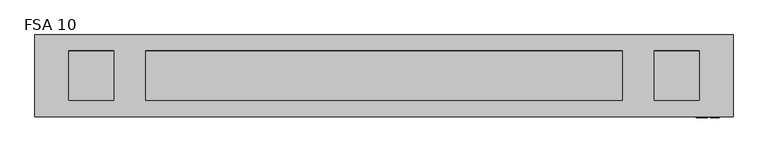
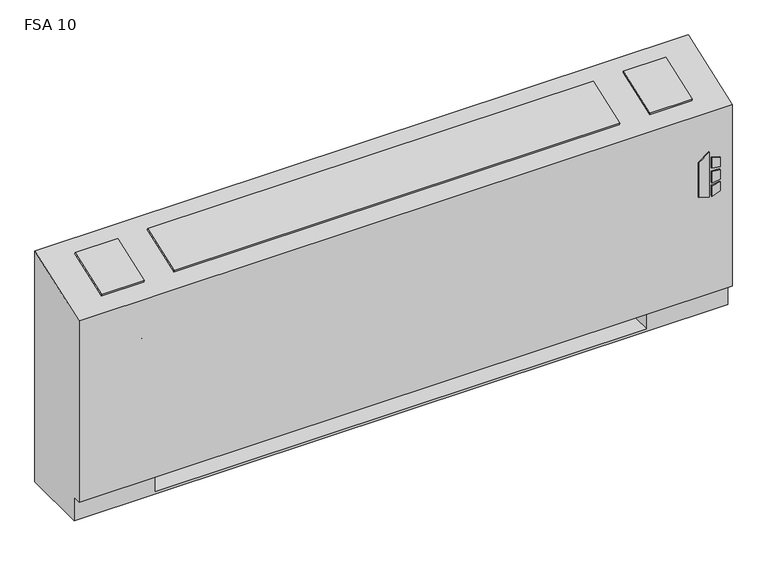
"""IFC4 building model written with IfcOpenShell, lengths in millimetres: proxy geometry, Vertical_Fan_Coil_Unit_-_FSA_-_IEC_-_4-Pipe_TS-FR_LH_2022 : FSA 10."""

from ifc_helpers import new_model, si_unit, point, frame, frame_2d, origin, place, context, project, spatial, polyline, circle_curve, trimmed, segment, composite_curve, outline, extrude, source, transform, mapped, element, save
from ifc_brep_helpers import plane_surface, revolved_surface, advanced_brep


def fsa_10_13eb66bb(model_context):
    return source(origin(), model_context, "Body", "SolidModel", [
        extrude(outline(polyline([(391.6086829, 1027.1868862), (381.6606126, 1059.3602728), (523.831537, 1059.3602728), (500.8095309, 1027.1868862), (391.6086829, 1027.1868862)])), frame((0.0, 12.7, 0.0), z_axis=(0.0, 1.0, 0.0), x_axis=(0.0, 0.0, 1.0)), (0.0, 0.0, 1.0), 3.175),
        extrude(outline(polyline([(470.6079683, 1066.1186058), (467.4055757, 1092.2), (496.6344168, 1092.2), (504.6988318, 1066.1186058), (470.6079683, 1066.1186058)])), frame((0.0, 12.7, 0.0), z_axis=(0.0, 1.0, 0.0), x_axis=(0.0, 0.0, 1.0)), (0.0, 0.0, 1.0), 3.175),
        extrude(outline(polyline([(418.7444414, 1092.2), (415.0789404, 1066.1186058), (381.6606126, 1066.1186058), (390.2948498, 1092.2), (418.7444414, 1092.2)])), frame((0.0, 12.7, 0.0), z_axis=(0.0, 1.0, 0.0), x_axis=(0.0, 0.0, 1.0)), (0.0, 0.0, 1.0), 3.175),
        extrude(outline(polyline([(458.0596028, 1092.2), (460.3414292, 1066.1186058), (424.4038806, 1066.1186058), (427.1451456, 1092.2), (458.0596028, 1092.2)])), frame((0.0, 12.7, 0.0), z_axis=(0.0, 1.0, 0.0), x_axis=(0.0, 0.0, 1.0)), (0.0, 0.0, 1.0), 3.175),
        extrude(outline(polyline([(1009.65, 223.266), (1009.65, 81.534), (889.0, 81.534), (889.0, 223.266), (1009.65, 223.266)])), frame((0.0, 0.0, 327.025), z_axis=(0.0, 0.0, 1.0), x_axis=(1.0, 0.0, 0.0)), (0.0, 0.0, 1.0), 260.35),
        extrude(outline(composite_curve([segment(trimmed(circle_curve(frame_2d((-647.7, 130.175)), 9.525), [point((-657.225, 130.175))], [point((-638.175, 130.175))], False, "CARTESIAN"), True, "CONTINUOUS"), segment(trimmed(circle_curve(frame_2d((-647.7, 130.175)), 9.525), [point((-638.175, 130.175))], [point((-657.225, 130.175))], False, "CARTESIAN"), True, "CONTINUOUS")], self_intersect=False)), frame((0.0, 0.0, 101.6), z_axis=(0.0, 0.0, 1.0), x_axis=(1.0, 0.0, 0.0)), (0.0, 0.0, 1.0), 25.4),
        extrude(outline(polyline([(-749.3, 63.5), (-749.3, 196.85), (-584.2, 196.85), (-584.2, 63.5), (-749.3, 63.5)])), frame((0.0, 0.0, 127.0), z_axis=(0.0, 0.0, 1.0), x_axis=(1.0, 0.0, 0.0)), (0.0, 0.0, 1.0), 50.8),
        extrude(outline(polyline([(0.0, -146.0500001), (0.0, 0.0), (127.0, 0.0), (127.0, -146.0500001), (0.0, -146.0500001)])), frame((-731.393, 200.4217127, 714.3418685), z_axis=(0.0, -0.3396444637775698, 0.9405538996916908), x_axis=(1.0, 0.0, 0.0)), (0.0, 0.0, 1.0), 6.35),
        extrude(outline(polyline([(0.0, -146.0500001), (0.0, 0.0), (1333.5, 0.0), (1333.5, -146.0500001), (0.0, -146.0500001)])), frame((819.15, 63.0538156, 664.7367945), z_axis=(0.0, -0.33964446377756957, 0.9405538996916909), x_axis=(-1.0, 0.0, 0.0)), (0.0, 0.0, 1.0), 6.35),
        extrude(outline(polyline([(0.0, -146.0500001), (0.0, 0.0), (127.0, 0.0), (127.0, -146.0500001), (0.0, -146.0500001)])), frame((1036.193, 63.0538156, 664.7367945), z_axis=(0.0, -0.3396444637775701, 0.9405538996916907), x_axis=(-1.0, 0.0, 0.0)), (0.0, 0.0, 1.0), 6.35),
        extrude(outline(composite_curve([segment(trimmed(circle_curve(frame_2d((109.0168, 460.0194)), 7.9375), [point((109.0168, 467.9569))], [point((109.0168, 452.0819))], False, "CARTESIAN"), True, "CONTINUOUS"), segment(trimmed(circle_curve(frame_2d((109.0168, 460.0194)), 7.9375), [point((109.0168, 452.0819))], [point((109.0168, 467.9569))], False, "CARTESIAN"), True, "CONTINUOUS")], self_intersect=False)), frame((-635.0, 0.0, 0.0), z_axis=(1.0, 0.0, 0.0), x_axis=(0.0, 1.0, 0.0)), (0.0, 0.0, 1.0), 50.8),
        extrude(outline(composite_curve([segment(trimmed(circle_curve(frame_2d((172.085, 460.0194)), 7.9375), [point((172.085, 467.9569))], [point((172.085, 452.0819))], False, "CARTESIAN"), True, "CONTINUOUS"), segment(trimmed(circle_curve(frame_2d((172.085, 460.0194)), 7.9375), [point((172.085, 452.0819))], [point((172.085, 467.9569))], False, "CARTESIAN"), True, "CONTINUOUS")], self_intersect=False)), frame((-635.0, 0.0, 0.0), z_axis=(1.0, 0.0, 0.0), x_axis=(0.0, 1.0, 0.0)), (0.0, 0.0, 1.0), 50.8),
        extrude(outline(composite_curve([segment(trimmed(circle_curve(frame_2d((130.175, 554.99)), 7.9502), [point((130.175, 562.9402))], [point((130.175, 547.0398))], False, "CARTESIAN"), True, "CONTINUOUS"), segment(trimmed(circle_curve(frame_2d((130.175, 554.99)), 7.9502), [point((130.175, 547.0398))], [point((130.175, 562.9402))], False, "CARTESIAN"), True, "CONTINUOUS")], self_intersect=False)), frame((-635.0, 0.0, 0.0), z_axis=(1.0, 0.0, 0.0), x_axis=(0.0, 1.0, 0.0)), (0.0, 0.0, 1.0), 50.8),
        extrude(outline(composite_curve([segment(trimmed(circle_curve(frame_2d((53.975, 416.56)), 7.9502), [point((53.975, 424.5102))], [point((53.975, 408.6098))], False, "CARTESIAN"), True, "CONTINUOUS"), segment(trimmed(circle_curve(frame_2d((53.975, 416.56)), 7.9502), [point((53.975, 408.6098))], [point((53.975, 424.5102))], False, "CARTESIAN"), True, "CONTINUOUS")], self_intersect=False)), frame((-635.0, 0.0, 0.0), z_axis=(1.0, 0.0, 0.0), x_axis=(0.0, 1.0, 0.0)), (0.0, 0.0, 1.0), 50.8),
        advanced_brep(
        [(-825.5, 244.475, 0.0), (1130.3, 244.475, 0.0), (1130.3, 41.275, 0.0), (-825.5, 41.275, 0.0), (-825.5, 244.475, 730.25), (1130.3, 244.475, 730.25), (889.0, 244.475, 73.025), (1117.6, 244.475, 73.025), (1117.6, 244.475, 654.05), (889.0, 244.475, 654.05), (889.0, 244.475, 414.8650565), (917.575, 244.475, 414.8650565), (917.575, 244.475, 385.2349435), (889.0, 244.475, 385.2349435), (889.0, 244.475, 287.3375), (917.575, 244.475, 287.3375), (917.575, 244.475, 258.7625), (889.0, 244.475, 258.7625), (889.0, 244.475, 141.2875), (917.575, 244.475, 141.2875), (917.575, 244.475, 112.7125), (889.0, 244.475, 112.7125), (-584.2, 244.475, 654.05), (-812.8, 244.475, 654.05), (-812.8, 244.475, 73.025), (-584.2, 244.475, 73.025), (-584.2, 244.475, 112.7125), (-612.775, 244.475, 112.7125), (-612.775, 244.475, 141.2875), (-584.2, 244.475, 141.2875), (-584.2, 244.475, 258.7625), (-612.775, 244.475, 258.7625), (-612.775, 244.475, 287.3375), (-584.2, 244.475, 287.3375), (-584.2, 244.475, 385.2349435), (-612.775, 244.475, 385.2349435), (-612.775, 244.475, 414.8650565), (-584.2, 244.475, 414.8650565), (907.2626, 244.475, 127.0), (896.1374, 244.475, 127.0), (907.2626, 244.475, 400.05), (896.1374, 244.475, 400.05), (907.2626, 244.475, 273.05), (896.1374, 244.475, 273.05), (-591.3374, 244.475, 127.0), (-602.4626, 244.475, 127.0), (-591.3374, 244.475, 273.05), (-602.4626, 244.475, 273.05), (-591.3374, 244.475, 400.05), (-602.4626, 244.475, 400.05), (-825.5, 41.275, 73.025), (-825.5, 15.875, 73.025), (-825.5, 15.875, 647.7), (1130.3, 15.875, 73.025), (1130.3, 15.875, 647.7), (1130.3, 41.275, 73.025), (-584.2, 41.275, 73.025), (-584.2, 225.425, 73.025), (889.0, 225.425, 73.025), (889.0, 41.275, 73.025), (889.0, 41.275, 6.35), (-584.2, 41.275, 6.35), (889.0, 41.275, 654.05), (1117.6, 41.275, 654.05), (1117.6, 41.275, 73.025), (889.0, 41.275, 73.025), (-584.2, 41.275, 654.05), (-584.2, 41.275, 73.025), (-812.8, 41.275, 73.025), (-812.8, 41.275, 654.05), (889.0, 225.425, 73.025), (889.0, 238.125, 112.7125), (889.0, 238.125, 141.2875), (889.0, 238.125, 258.7625), (889.0, 238.125, 287.3375), (889.0, 238.125, 385.2349435), (889.0, 238.125, 414.8650565), (-584.2, 225.425, 73.025), (-584.2, 238.125, 414.8650565), (-584.2, 238.125, 385.2349435), (-584.2, 238.125, 287.3375), (-584.2, 238.125, 258.7625), (-584.2, 238.125, 141.2875), (-584.2, 238.125, 112.7125), (-584.2, 225.425, 6.35), (889.0, 225.425, 6.35), (917.575, 238.125, 112.7125), (917.575, 238.125, 141.2875), (896.1374, 238.125, 127.0), (907.2626, 238.125, 127.0), (917.575, 238.125, 258.7625), (917.575, 238.125, 287.3375), (896.1374, 238.125, 273.05), (907.2626, 238.125, 273.05), (917.575, 238.125, 385.2349435), (917.575, 238.125, 414.8650565), (896.1374, 238.125, 400.05), (907.2626, 238.125, 400.05), (-612.775, 238.125, 141.2875), (-612.775, 238.125, 112.7125), (-602.4626, 238.125, 127.0), (-591.3374, 238.125, 127.0), (-612.775, 238.125, 287.3375), (-612.775, 238.125, 258.7625), (-602.4626, 238.125, 273.05), (-591.3374, 238.125, 273.05), (-612.775, 238.125, 414.8650565), (-612.775, 238.125, 385.2349435), (-602.4626, 238.125, 400.05), (-591.3374, 238.125, 400.05)],
        [
            (0, 1),
            (1, 2),
            (2, 3),
            (3, 0),
            (0, 4),
            (4, 5),
            (5, 1),
            (6, 7),
            (7, 8),
            (8, 9),
            (9, 10),
            (10, 11),
            (11, 12),
            (12, 13),
            (13, 14),
            (14, 15),
            (15, 16),
            (16, 17),
            (17, 18),
            (18, 19),
            (19, 20),
            (20, 21),
            (21, 6),
            (22, 23),
            (23, 24),
            (24, 25),
            (25, 26),
            (26, 27),
            (27, 28),
            (28, 29),
            (29, 30),
            (30, 31),
            (31, 32),
            (32, 33),
            (33, 34),
            (34, 35),
            (35, 36),
            (36, 37),
            (37, 22),
            (38, 39, circle_curve(frame((901.7, 244.475, 127.0), z_axis=(0.0, -1.0, 0.0), x_axis=(-1.0, 0.0, 0.0)), 5.5626)),
            (39, 38, circle_curve(frame((901.7, 244.475, 127.0), z_axis=(0.0, -1.0, 0.0), x_axis=(-1.0, 0.0, 0.0)), 5.5626)),
            (40, 41, circle_curve(frame((901.7, 244.475, 400.05), z_axis=(0.0, -1.0, 0.0), x_axis=(-1.0, 0.0, 0.0)), 5.5626)),
            (41, 40, circle_curve(frame((901.7, 244.475, 400.05), z_axis=(0.0, -1.0, 0.0), x_axis=(-1.0, 0.0, 0.0)), 5.5626)),
            (42, 43, circle_curve(frame((901.7, 244.475, 273.05), z_axis=(0.0, -1.0, 0.0), x_axis=(-1.0, 0.0, 0.0)), 5.5626)),
            (43, 42, circle_curve(frame((901.7, 244.475, 273.05), z_axis=(0.0, -1.0, 0.0), x_axis=(-1.0, 0.0, 0.0)), 5.5626)),
            (44, 45, circle_curve(frame((-596.9, 244.475, 127.0), z_axis=(0.0, -1.0, 0.0), x_axis=(-1.0, 0.0, 0.0)), 5.5626)),
            (45, 44, circle_curve(frame((-596.9, 244.475, 127.0), z_axis=(0.0, -1.0, 0.0), x_axis=(-1.0, 0.0, 0.0)), 5.5626)),
            (46, 47, circle_curve(frame((-596.9, 244.475, 273.05), z_axis=(0.0, -1.0, 0.0), x_axis=(-1.0, 0.0, 0.0)), 5.5626)),
            (47, 46, circle_curve(frame((-596.9, 244.475, 273.05), z_axis=(0.0, -1.0, 0.0), x_axis=(-1.0, 0.0, 0.0)), 5.5626)),
            (48, 49, circle_curve(frame((-596.9, 244.475, 400.05), z_axis=(0.0, -1.0, 0.0), x_axis=(-1.0, 0.0, 0.0)), 5.5626)),
            (49, 48, circle_curve(frame((-596.9, 244.475, 400.05), z_axis=(0.0, -1.0, 0.0), x_axis=(-1.0, 0.0, 0.0)), 5.5626)),
            (3, 50),
            (50, 51),
            (51, 52),
            (52, 4),
            (51, 53),
            (53, 54),
            (54, 52),
            (5, 54),
            (53, 55),
            (55, 2),
            (50, 56),
            (56, 57),
            (57, 58),
            (58, 59),
            (59, 55),
            (59, 60),
            (60, 61),
            (61, 56),
            (62, 63),
            (63, 64),
            (64, 65),
            (65, 62),
            (66, 67),
            (67, 68),
            (68, 69),
            (69, 66),
            (65, 70),
            (70, 6),
            (21, 71),
            (71, 72),
            (72, 18),
            (17, 73),
            (73, 74),
            (74, 14),
            (13, 75),
            (75, 76),
            (76, 10),
            (9, 62),
            (64, 7),
            (63, 8),
            (69, 23),
            (22, 66),
            (68, 24),
            (67, 77),
            (77, 25),
            (37, 78),
            (78, 79),
            (79, 34),
            (33, 80),
            (80, 81),
            (81, 30),
            (29, 82),
            (82, 83),
            (83, 26),
            (57, 84),
            (84, 85),
            (85, 58),
            (85, 60),
            (84, 61),
            (71, 86),
            (86, 87),
            (87, 72),
            (88, 89, circle_curve(frame((901.7, 238.125, 127.0), z_axis=(0.0, 1.0, 0.0), x_axis=(-1.0, 0.0, 0.0)), 5.5626)),
            (89, 88, circle_curve(frame((901.7, 238.125, 127.0), z_axis=(0.0, 1.0, 0.0), x_axis=(-1.0, 0.0, 0.0)), 5.5626)),
            (73, 90),
            (90, 91),
            (91, 74),
            (92, 93, circle_curve(frame((901.7, 238.125, 273.05), z_axis=(0.0, 1.0, 0.0), x_axis=(-1.0, 0.0, 0.0)), 5.5626)),
            (93, 92, circle_curve(frame((901.7, 238.125, 273.05), z_axis=(0.0, 1.0, 0.0), x_axis=(-1.0, 0.0, 0.0)), 5.5626)),
            (75, 94),
            (94, 95),
            (95, 76),
            (96, 97, circle_curve(frame((901.7, 238.125, 400.05), z_axis=(0.0, 1.0, 0.0), x_axis=(-1.0, 0.0, 0.0)), 5.5626)),
            (97, 96, circle_curve(frame((901.7, 238.125, 400.05), z_axis=(0.0, 1.0, 0.0), x_axis=(-1.0, 0.0, 0.0)), 5.5626)),
            (98, 99),
            (99, 83),
            (82, 98),
            (100, 101, circle_curve(frame((-596.9, 238.125, 127.0), z_axis=(0.0, 1.0, 0.0), x_axis=(-1.0, 0.0, 0.0)), 5.5626)),
            (101, 100, circle_curve(frame((-596.9, 238.125, 127.0), z_axis=(0.0, 1.0, 0.0), x_axis=(-1.0, 0.0, 0.0)), 5.5626)),
            (102, 103),
            (103, 81),
            (80, 102),
            (104, 105, circle_curve(frame((-596.9, 238.125, 273.05), z_axis=(0.0, 1.0, 0.0), x_axis=(-1.0, 0.0, 0.0)), 5.5626)),
            (105, 104, circle_curve(frame((-596.9, 238.125, 273.05), z_axis=(0.0, 1.0, 0.0), x_axis=(-1.0, 0.0, 0.0)), 5.5626)),
            (106, 107),
            (107, 79),
            (78, 106),
            (108, 109, circle_curve(frame((-596.9, 238.125, 400.05), z_axis=(0.0, 1.0, 0.0), x_axis=(-1.0, 0.0, 0.0)), 5.5626)),
            (109, 108, circle_curve(frame((-596.9, 238.125, 400.05), z_axis=(0.0, 1.0, 0.0), x_axis=(-1.0, 0.0, 0.0)), 5.5626)),
            (87, 19),
            (86, 20),
            (91, 15),
            (90, 16),
            (95, 11),
            (94, 12),
            (28, 98),
            (99, 27),
            (32, 102),
            (103, 31),
            (36, 106),
            (107, 35),
            (88, 39),
            (38, 89),
            (96, 41),
            (40, 97),
            (92, 43),
            (42, 93),
            (100, 45),
            (44, 101),
            (104, 47),
            (46, 105),
            (108, 49),
            (48, 109),
        ],
        [
            plane_surface(frame((-825.5, 244.475, 0.0), z_axis=(0.0, 0.0, -1.0), x_axis=(1.0, 0.0, 0.0))),
            plane_surface(frame((1130.3, 244.475, 730.25), z_axis=(0.0, 1.0, 0.0), x_axis=(0.0, 0.0, -1.0))),
            plane_surface(frame((-825.5, 244.475, 730.25), z_axis=(-1.0, 0.0, 0.0), x_axis=(0.0, 0.0, -1.0))),
            plane_surface(frame((-825.5, 15.875, 730.25), z_axis=(0.0, -1.0, 0.0), x_axis=(0.0, 0.0, -1.0))),
            plane_surface(frame((1130.3, 15.875, 730.25), z_axis=(1.0, 0.0, 0.0), x_axis=(0.0, 0.0, -1.0))),
            plane_surface(frame((-825.5, 15.875, 73.025), z_axis=(0.0, 0.0, -1.0), x_axis=(1.0, 0.0, 0.0))),
            plane_surface(frame((-825.5, 41.275, 73.025), z_axis=(0.0, -1.0, 0.0), x_axis=(1.0, 0.0, 0.0))),
            plane_surface(frame((889.0, 41.275, 654.05), z_axis=(0.0, 1.0, 0.0), x_axis=(0.0, 0.0, -1.0))),
            plane_surface(frame((889.0, 41.275, 654.05), z_axis=(1.0, 0.0, 0.0), x_axis=(0.0, 1.0, 0.0))),
            plane_surface(frame((889.0, 41.275, 73.025), z_axis=(0.0, 0.0, 1.0), x_axis=(0.0, 1.0, 0.0))),
            plane_surface(frame((1117.6, 41.275, 73.025), z_axis=(-1.0, 0.0, 0.0), x_axis=(0.0, 1.0, 0.0))),
            plane_surface(frame((1117.6, 41.275, 654.05), z_axis=(0.0, 0.0, -1.0), x_axis=(0.0, 1.0, 0.0))),
            plane_surface(frame((-584.2, 41.275, 654.05), z_axis=(0.0, 0.0, -1.0), x_axis=(0.0, 1.0, 0.0))),
            plane_surface(frame((-812.8, 41.275, 654.05), z_axis=(1.0, 0.0, 0.0), x_axis=(0.0, 1.0, 0.0))),
            plane_surface(frame((-812.8, 41.275, 73.025), z_axis=(0.0, 0.0, 1.0), x_axis=(0.0, 1.0, 0.0))),
            plane_surface(frame((-584.2, 41.275, 73.025), z_axis=(-1.0, 0.0, 0.0), x_axis=(0.0, 1.0, 0.0))),
            plane_surface(frame((889.0, 225.425, 73.025), z_axis=(0.0, -1.0, 0.0), x_axis=(0.0, 0.0, -1.0))),
            plane_surface(frame((889.0, 225.425, 73.025), z_axis=(-1.0, 0.0, 0.0), x_axis=(0.0, -1.0, 0.0))),
            plane_surface(frame((889.0, 225.425, 6.35), z_axis=(0.0, 0.0, 1.0), x_axis=(0.0, -1.0, 0.0))),
            plane_surface(frame((-584.2, 225.425, 6.35), z_axis=(1.0, 0.0, 0.0), x_axis=(0.0, -1.0, 0.0))),
            plane_surface(frame((917.575, 238.125, 141.2875), z_axis=(0.0, -1.0, 0.0), x_axis=(-1.0, 0.0, 0.0))),
            plane_surface(frame((889.0, 244.475, 141.2875), z_axis=(0.0, 0.0, 1.0), x_axis=(0.0, -1.0, 0.0))),
            plane_surface(frame((917.575, 244.475, 141.2875), z_axis=(1.0, 0.0, 0.0), x_axis=(0.0, -1.0, 0.0))),
            plane_surface(frame((917.575, 244.475, 112.7125), z_axis=(0.0, 0.0, -1.0), x_axis=(0.0, -1.0, 0.0))),
            plane_surface(frame((889.0, 244.475, 287.3375), z_axis=(0.0, 0.0, 1.0), x_axis=(0.0, -1.0, 0.0))),
            plane_surface(frame((917.575, 244.475, 287.3375), z_axis=(1.0, 0.0, 0.0), x_axis=(0.0, -1.0, 0.0))),
            plane_surface(frame((917.575, 244.475, 258.7625), z_axis=(0.0, 0.0, -1.0), x_axis=(0.0, -1.0, 0.0))),
            plane_surface(frame((889.0, 244.475, 414.8650565), z_axis=(0.0, 0.0, 1.0), x_axis=(0.0, -1.0, 0.0))),
            plane_surface(frame((917.575, 244.475, 414.8650565), z_axis=(1.0, 0.0, 0.0), x_axis=(0.0, -1.0, 0.0))),
            plane_surface(frame((917.575, 244.475, 385.2349435), z_axis=(0.0, 0.0, -1.0), x_axis=(0.0, -1.0, 0.0))),
            plane_surface(frame((-612.775, 244.475, 141.2875), z_axis=(0.0, 0.0, 1.0), x_axis=(0.0, -1.0, 0.0))),
            plane_surface(frame((-584.2, 244.475, 112.7125), z_axis=(0.0, 0.0, -1.0), x_axis=(0.0, -1.0, 0.0))),
            plane_surface(frame((-612.775, 244.475, 112.7125), z_axis=(-1.0, 0.0, 0.0), x_axis=(0.0, -1.0, 0.0))),
            plane_surface(frame((-612.775, 244.475, 287.3375), z_axis=(0.0, 0.0, 1.0), x_axis=(0.0, -1.0, 0.0))),
            plane_surface(frame((-584.2, 244.475, 258.7625), z_axis=(0.0, 0.0, -1.0), x_axis=(0.0, -1.0, 0.0))),
            plane_surface(frame((-612.775, 244.475, 258.7625), z_axis=(-1.0, 0.0, 0.0), x_axis=(0.0, -1.0, 0.0))),
            plane_surface(frame((-612.775, 244.475, 414.8650565), z_axis=(0.0, 0.0, 1.0), x_axis=(0.0, -1.0, 0.0))),
            plane_surface(frame((-584.2, 244.475, 385.2349435), z_axis=(0.0, 0.0, -1.0), x_axis=(0.0, -1.0, 0.0))),
            plane_surface(frame((-612.775, 244.475, 385.2349435), z_axis=(-1.0, 0.0, 0.0), x_axis=(0.0, -1.0, 0.0))),
            revolved_surface(polyline([(896.1374000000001, 238.125, 127.0), (896.1374000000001, 244.475, 127.0)]), (901.7, 244.475, 127.0), (0.0, -1.0, 0.0)),
            revolved_surface(polyline([(896.1374000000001, 238.125, 400.05), (896.1374000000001, 244.475, 400.05)]), (901.7, 244.475, 400.05), (0.0, -1.0, 0.0)),
            revolved_surface(polyline([(896.1374000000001, 238.125, 273.05), (896.1374000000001, 244.475, 273.05)]), (901.7, 244.475, 273.05), (0.0, -1.0, 0.0)),
            revolved_surface(polyline([(-602.4626, 238.125, 127.0), (-602.4626, 244.475, 127.0)]), (-596.9, 244.475, 127.0), (0.0, -1.0, 0.0)),
            revolved_surface(polyline([(-602.4626, 238.125, 273.05), (-602.4626, 244.475, 273.05)]), (-596.9, 244.475, 273.05), (0.0, -1.0, 0.0)),
            revolved_surface(polyline([(-602.4626, 238.125, 400.05), (-602.4626, 244.475, 400.05)]), (-596.9, 244.475, 400.05), (0.0, -1.0, 0.0)),
            plane_surface(frame((-825.5, 244.475, 730.25), z_axis=(0.0, -0.33964446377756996, 0.9405538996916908), x_axis=(1.0, 0.0, 0.0))),
        ],
        [
            (0, [[1, 2, 3, 4]]),
            (1, [[-1, 5, 6, 7], [8, 9, 10, 11, 12, 13, 14, 15, 16, 17, 18, 19, 20, 21, 22, 23], [24, 25, 26, 27, 28, 29, 30, 31, 32, 33, 34, 35, 36, 37, 38, 39], [40, 41], [42, 43], [44, 45], [46, 47], [48, 49], [50, 51]]),
            (2, [[-5, -4, 52, 53, 54, 55]]),
            (3, [[56, 57, 58, -54]]),
            (4, [[-7, 59, -57, 60, 61, -2]]),
            (5, [[-53, 62, 63, 64, 65, 66, -60, -56]]),
            (6, [[-3, -61, -66, 67, 68, 69, -62, -52]]),
            (7, [[70, 71, 72, 73]]),
            (7, [[74, 75, 76, 77]]),
            (8, [[-73, 78, 79, -23, 80, 81, 82, -19, 83, 84, 85, -15, 86, 87, 88, -11, 89]]),
            (9, [[-72, 90, -8, -79, -78]]),
            (10, [[-71, 91, -9, -90]]),
            (11, [[-70, -89, -10, -91]]),
            (12, [[-77, 92, -24, 93]]),
            (13, [[-76, 94, -25, -92]]),
            (14, [[-75, 95, 96, -26, -94]]),
            (15, [[-74, -93, -39, 97, 98, 99, -35, 100, 101, 102, -31, 103, 104, 105, -27, -96, -95]]),
            (16, [[-64, 106, 107, 108]]),
            (17, [[-108, 109, -67, -65]]),
            (18, [[-107, 110, -68, -109]]),
            (19, [[-106, -63, -69, -110]]),
            (20, [[111, 112, 113, -81], [114, 115]]),
            (20, [[116, 117, 118, -84], [119, 120]]),
            (20, [[121, 122, 123, -87], [124, 125]]),
            (20, [[126, 127, -104, 128], [129, 130]]),
            (20, [[131, 132, -101, 133], [134, 135]]),
            (20, [[136, 137, -98, 138], [139, 140]]),
            (21, [[-113, 141, -20, -82]]),
            (22, [[-112, 142, -21, -141]]),
            (23, [[-111, -80, -22, -142]]),
            (24, [[-118, 143, -16, -85]]),
            (25, [[-117, 144, -17, -143]]),
            (26, [[-116, -83, -18, -144]]),
            (27, [[-123, 145, -12, -88]]),
            (28, [[-122, 146, -13, -145]]),
            (29, [[-121, -86, -14, -146]]),
            (30, [[-128, -103, -30, 147]]),
            (31, [[-127, 148, -28, -105]]),
            (32, [[-126, -147, -29, -148]]),
            (33, [[-133, -100, -34, 149]]),
            (34, [[-132, 150, -32, -102]]),
            (35, [[-131, -149, -33, -150]]),
            (36, [[-138, -97, -38, 151]]),
            (37, [[-137, 152, -36, -99]]),
            (38, [[-136, -151, -37, -152]]),
            (39, [[153, -40, 154, -114]]),
            (39, [[-153, -115, -154, -41]]),
            (40, [[155, -42, 156, -124]]),
            (40, [[-155, -125, -156, -43]]),
            (41, [[157, -44, 158, -119]]),
            (41, [[-157, -120, -158, -45]]),
            (42, [[159, -46, 160, -129]]),
            (42, [[-159, -130, -160, -47]]),
            (43, [[161, -48, 162, -134]]),
            (43, [[-161, -135, -162, -49]]),
            (44, [[163, -50, 164, -139]]),
            (44, [[-163, -140, -164, -51]]),
            (45, [[-6, -55, -58, -59]]),
        ],
    ),
    ])


if __name__ == "__main__":
    model = new_model("IFC4")
    model_context = context("Model", 3, world=origin())
    ifc_project = project(units=[si_unit("LENGTHUNIT", "METRE", prefix="MILLI")], contexts=[model_context])
    site = spatial("IfcSite", under=ifc_project)
    building = spatial("IfcBuilding", under=site)
    placement = place(None, origin())
    fsa_10_shape = fsa_10_13eb66bb(model_context)
    element("IfcBuildingElementProxy", 1, Name="Vertical_Fan_Coil_Unit_-_FSA_-_IEC_-_4-Pipe_TS-FR_LH_2022 : FSA 10", ObjectType="Vertical_Fan_Coil_Unit_-_FSA_-_IEC_-_4-Pipe_TS-FR_LH_2022 : FSA 10", at=placement, inside=building, context=model_context, shape_type="MappedRepresentation", body=[
        mapped(fsa_10_shape, transform((0.0, 0.0, 0.0), x_axis=(1.0, 0.0, 0.0), y_axis=(0.0, 1.0, 0.0), z_axis=(0.0, 0.0, 1.0))),
    ])
    save(model, "model.ifc")
